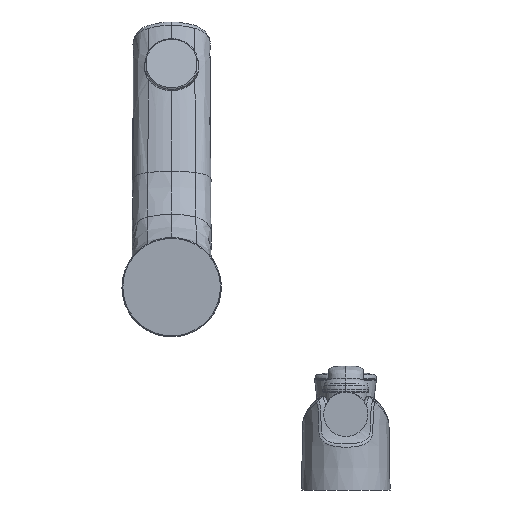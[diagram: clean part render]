
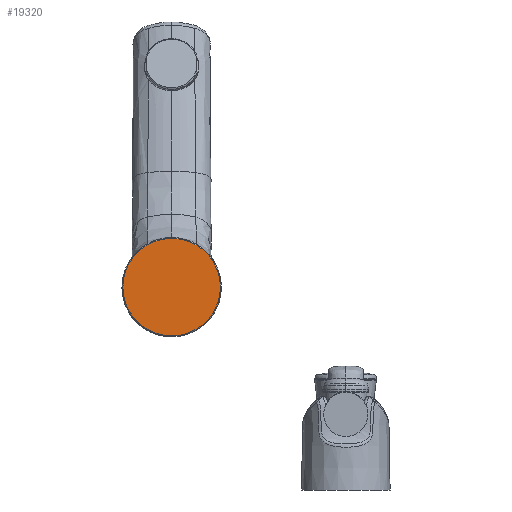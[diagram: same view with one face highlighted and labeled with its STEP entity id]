
A CAD part, front view. The second image highlights one B-rep face of the part: STEP entity #19320.
In plain terms, the highlighted planar face has unit normal (0, -1, 0).
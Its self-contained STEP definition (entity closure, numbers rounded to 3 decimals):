
#2454 = CARTESIAN_POINT ( 'NONE',  ( 0., -0.5, 25.25 ) ) ;
#3105 = EDGE_CURVE ( 'NONE', #13001, #10303, #10257, .T. ) ;
#3128 = AXIS2_PLACEMENT_3D ( 'NONE', #10210, #18365, #8667 ) ;
#4040 = CARTESIAN_POINT ( 'NONE',  ( 0., -0.5, 0. ) ) ;
#5669 = DIRECTION ( 'NONE',  ( 0., 0., 1. ) ) ;
#5753 = AXIS2_PLACEMENT_3D ( 'NONE', #6729, #18059, #8364 ) ;
#6340 = EDGE_CURVE ( 'NONE', #10303, #13001, #20689, .T. ) ;
#6729 = CARTESIAN_POINT ( 'NONE',  ( 0., -0.5, 0. ) ) ;
#7028 = PLANE ( 'NONE',  #3128 ) ;
#8364 = DIRECTION ( 'NONE',  ( 0., 0., 1. ) ) ;
#8667 = DIRECTION ( 'NONE',  ( 0., 0., -1. ) ) ;
#10210 = CARTESIAN_POINT ( 'NONE',  ( 0., -0.5, -20.642 ) ) ;
#10257 = CIRCLE ( 'NONE', #5753, 25.25 ) ;
#10303 = VERTEX_POINT ( 'NONE', #19438 ) ;
#13001 = VERTEX_POINT ( 'NONE', #2454 ) ;
#13638 = FACE_OUTER_BOUND ( 'NONE', #15925, .T. ) ;
#15125 = ORIENTED_EDGE ( 'NONE', *, *, #3105, .F. ) ;
#15376 = DIRECTION ( 'NONE',  ( 0., 1., 0. ) ) ;
#15925 = EDGE_LOOP ( 'NONE', ( #15125, #17445 ) ) ;
#17445 = ORIENTED_EDGE ( 'NONE', *, *, #6340, .F. ) ;
#18059 = DIRECTION ( 'NONE',  ( 0., 1., 0. ) ) ;
#18252 = AXIS2_PLACEMENT_3D ( 'NONE', #4040, #15376, #5669 ) ;
#18365 = DIRECTION ( 'NONE',  ( 0., -1., 0. ) ) ;
#19320 = ADVANCED_FACE ( 'NONE', ( #13638 ), #7028, .T. ) ;
#19438 = CARTESIAN_POINT ( 'NONE',  ( 0., -0.5, -25.25 ) ) ;
#20689 = CIRCLE ( 'NONE', #18252, 25.25 ) ;
